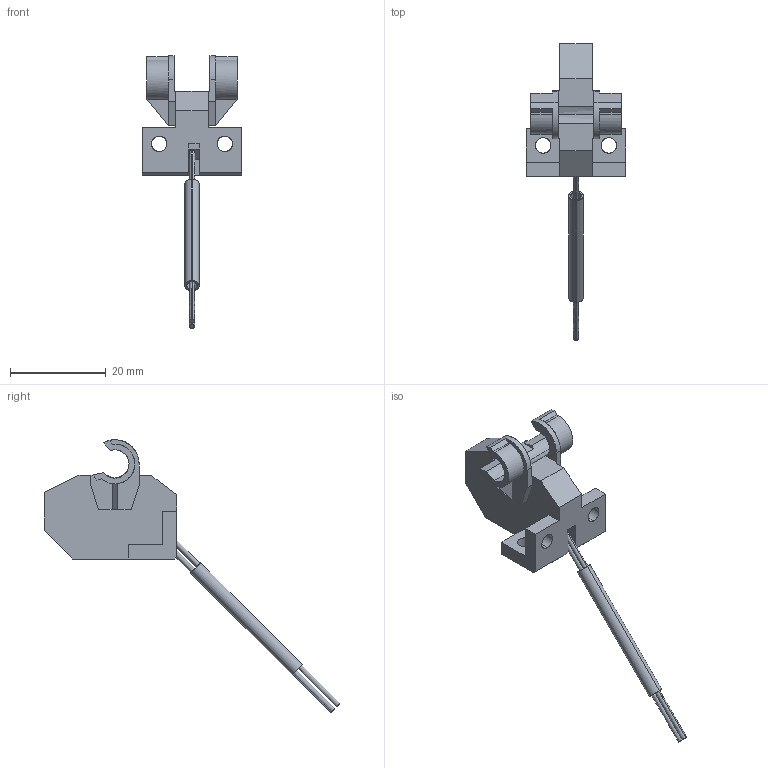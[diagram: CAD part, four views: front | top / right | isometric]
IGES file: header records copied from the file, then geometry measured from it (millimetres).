
Start section: SolidWorks IGES file using analytic representation for surfaces
Global section: file name: C:\catalog\fd-bef64.IGS; native system: SolidWorks 2017; preprocessor: SolidWorks 2017; author: 4056390; date: 200924.103643; units: millimetre
Bounding box: 20.7 x 61.79 x 56.89 mm (x, y, z)
Surface area: 3414.1 mm2 (no closed solid volume)
Topology: 0 solids, 0 shells, 97 faces, 1162 edges, 1162 vertices
Faces by surface type: bspline 67, revolution 30
